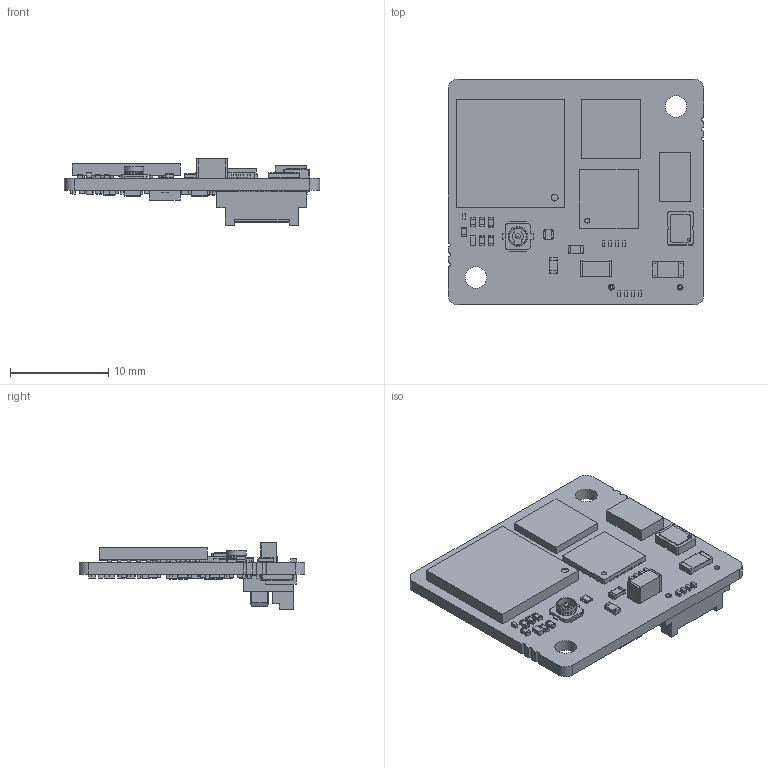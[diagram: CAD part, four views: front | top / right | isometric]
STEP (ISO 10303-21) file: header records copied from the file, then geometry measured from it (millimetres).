
FILE_DESCRIPTION( ( 'Unknown' ), '1' );
FILE_NAME( 'Q:/2003/Product3DCADModels/STEP-test/mm-ap31c01-0115-0201.stp', 'Unknown', ( 'Unknown' ), ( 'Unknown' ), 'PSStep 17.0.49', 'Unknown', ' ' );
FILE_SCHEMA( ( 'AUTOMOTIVE_DESIGN { 1 0 10303 214 1 1 1 1 }' ) );
Length unit declared in the file: millimetre
Products named in the file (169): 7601335232; Extruded; 7601350512; 7030659472; 7601350912; 7030667872; DRC (S-PVSON-N10); User Library-DRC (S-PVSON-N10)-1_DRC_Koerper; User Library-DRC (S-PVSON-N10)-1_DRC_PINS; WE-KI-0402A-rev1; Leitfl㢨e; Keramik; User Library-GS2971; BUDDY; BALL; 7601353312; C55; CR1005-0402; R28; R46; C26; R20; C28; C14; R40; C35; User Library-CAPC1005X06; R19; R3; R30; LED1; SML-P24MUWT86; C24; R39; C37; R44; C17; R43; R10; C10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
Assembly tree (483 placements, depth 4):
  Assem1
    Board
      Open CASCADE STEP translator 7.5 8.1.1
    C51
      7030659472
        Extruded
    L2
      CR1608-0603
      CR1608-0603
      CR1608-0603
      CR1608-0603
    C5
      7030667872
        Extruded
    J1
      10106813-021112LF
    U4
      7601350512
        Extruded
    U5
      User Library-GS2971
        BUDDY
        BALL  x100
    U6
      DRC (S-PVSON-N10)
        User Library-DRC (S-PVSON-N10)-1_DRC_Koerper
        User Library-DRC (S-PVSON-N10)-1_DRC_PINS
    U3
      User_Library-QFN_48_6x6_pitch_0_4
    U2
      7601353312
        Extruded
    R47
      CR1005-0402
      CR1005-0402
      CR1005-0402
      CR1005-0402
    R34
      7030667872
        Extruded
    C66
      7030667872
        Extruded
    C55
      CR1005-0402
      CR1005-0402
      CR1005-0402
      CR1005-0402
    C47
      CR1005-0402
      CR1005-0402
      CR1005-0402
      CR1005-0402
    C46
      CR1005-0402
      CR1005-0402
      CR1005-0402
      CR1005-0402
    C45
      7030667872
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Bounding box: 26 x 23 x 6.77 mm (x, y, z)
Volume: 1069.1 mm3; surface area: 2668.6 mm2
Topology: 353 solids, 353 shells, 3394 faces, 8407 edges, 5488 vertices
Faces by surface type: plane 2865, cylinder 339, sphere 155, bspline 15, torus 8, cone 6, revolution 6
Full cylindrical faces by diameter (mm): 0.023 x14, 0.224 x1, 0.5 x3, 0.6 x2, 0.7 x1, 1.7 x1, 1.86 x1, 2 x2, 2.2 x2
Entity records: 56059 total; most frequent: CARTESIAN_POINT 8227, DIRECTION 7250, ORIENTED_EDGE 6378, EDGE_CURVE 3189, LINE 2644, VECTOR 2644, AXIS2_PLACEMENT_3D 2300, VERTEX_POINT 2126
